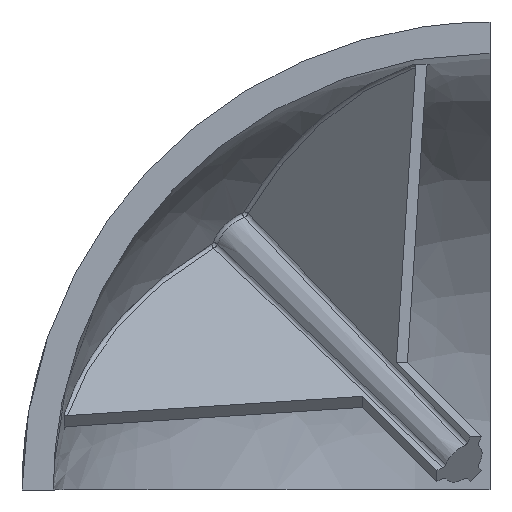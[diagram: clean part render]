
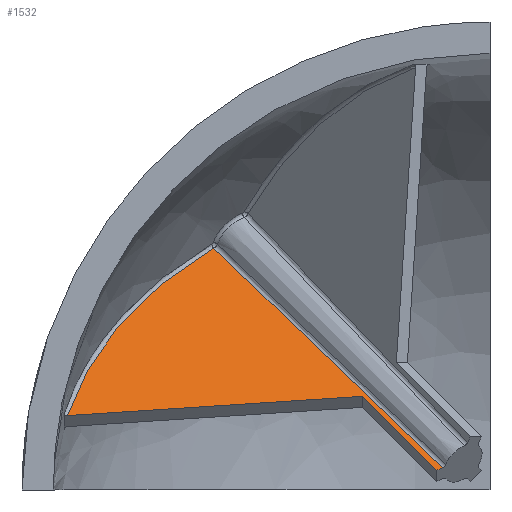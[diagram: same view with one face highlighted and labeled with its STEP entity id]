
A CAD part, front view. The second image highlights one B-rep face of the part: STEP entity #1532.
In plain terms, the highlighted planar face has unit normal (0, -0.707, 0.707).
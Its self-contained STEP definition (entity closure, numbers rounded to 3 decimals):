
#8 = CARTESIAN_POINT ( 'NONE',  ( -7.277, 4.78, 5.487 ) ) ;
#12 = ORIENTED_EDGE ( 'NONE', *, *, #229, .T. ) ;
#93 = CARTESIAN_POINT ( 'NONE',  ( -25.415, 7.614, 8.321 ) ) ;
#128 = CARTESIAN_POINT ( 'NONE',  ( -17.701, 14.796, 15.503 ) ) ;
#130 = VECTOR ( 'NONE', #1631, 1000. ) ;
#141 = EDGE_CURVE ( 'NONE', #2042, #1685, #1722, .T. ) ;
#229 = EDGE_CURVE ( 'NONE', #1975, #605, #896, .T. ) ;
#260 = CARTESIAN_POINT ( 'NONE',  ( -25.1, 8.099, 8.806 ) ) ;
#303 = CARTESIAN_POINT ( 'NONE',  ( -19.96, 13.362, 14.069 ) ) ;
#355 = CARTESIAN_POINT ( 'NONE',  ( -15.73, 12.902, 13.609 ) ) ;
#482 = LINE ( 'NONE', #2209, #1971 ) ;
#538 = CARTESIAN_POINT ( 'NONE',  ( -3.049, 0.72, 1.427 ) ) ;
#605 = VERTEX_POINT ( 'NONE', #1698 ) ;
#611 = CARTESIAN_POINT ( 'NONE',  ( -18.878, 14.108, 14.815 ) ) ;
#623 = CARTESIAN_POINT ( 'NONE',  ( -26.276, 6.135, 6.842 ) ) ;
#624 = VECTOR ( 'NONE', #1540, 1000. ) ;
#630 = ORIENTED_EDGE ( 'NONE', *, *, #1429, .T. ) ;
#707 = CARTESIAN_POINT ( 'NONE',  ( -13.759, 11.007, 11.714 ) ) ;
#751 = CARTESIAN_POINT ( 'NONE',  ( -27.08, 4.064, 4.771 ) ) ;
#857 = EDGE_LOOP ( 'NONE', ( #12, #630, #2176, #929, #1816 ) ) ;
#887 = EDGE_CURVE ( 'NONE', #1685, #1327, #1810, .T. ) ;
#896 = B_SPLINE_CURVE_WITH_KNOTS ( 'NONE', 3,
 ( #538, #2073, #8, #1388, #2060, #1908, #2085, #707, #355, #1569 ),
 .UNSPECIFIED., .F., .F.,
 ( 4, 3, 3, 4 ),
 ( 0., 0.011, 0.015, 0.025 ),
 .UNSPECIFIED. ) ;
#929 = ORIENTED_EDGE ( 'NONE', *, *, #887, .T. ) ;
#1012 = DIRECTION ( 'NONE',  ( 0., -0.707, -0.707 ) ) ;
#1123 = CARTESIAN_POINT ( 'NONE',  ( -24.038, 9.523, 10.23 ) ) ;
#1148 = DIRECTION ( 'NONE',  ( 0.816, 0.408, 0.408 ) ) ;
#1159 = CARTESIAN_POINT ( 'NONE',  ( -15.848, 18.114, 18.821 ) ) ;
#1289 = CARTESIAN_POINT ( 'NONE',  ( -8.161, 5.296, 6.004 ) ) ;
#1297 = CARTESIAN_POINT ( 'NONE',  ( -26.737, 5.116, 5.823 ) ) ;
#1327 = VERTEX_POINT ( 'NONE', #1886 ) ;
#1369 = DIRECTION ( 'NONE',  ( 0., -0.707, 0.707 ) ) ;
#1383 = CARTESIAN_POINT ( 'NONE',  ( -27.08, 4.064, 4.771 ) ) ;
#1388 = CARTESIAN_POINT ( 'NONE',  ( -9.39, 6.81, 7.517 ) ) ;
#1429 = EDGE_CURVE ( 'NONE', #605, #2042, #1839, .T. ) ;
#1443 = CARTESIAN_POINT ( 'NONE',  ( -27.08, 4.064, 4.771 ) ) ;
#1454 = CARTESIAN_POINT ( 'NONE',  ( -21.938, 11.757, 12.464 ) ) ;
#1518 = CARTESIAN_POINT ( 'NONE',  ( -3.049, 0.72, 1.427 ) ) ;
#1532 = ADVANCED_FACE ( 'NONE', ( #1892 ), #2195, .T. ) ;
#1540 = DIRECTION ( 'NONE',  ( 0.996, 0.065, 0.065 ) ) ;
#1569 = CARTESIAN_POINT ( 'NONE',  ( -17.701, 14.796, 15.503 ) ) ;
#1631 = DIRECTION ( 'NONE',  ( 0.577, -0.577, -0.577 ) ) ;
#1685 = VERTEX_POINT ( 'NONE', #2136 ) ;
#1698 = CARTESIAN_POINT ( 'NONE',  ( -17.701, 14.796, 15.503 ) ) ;
#1722 = LINE ( 'NONE', #1383, #624 ) ;
#1810 = LINE ( 'NONE', #1289, #130 ) ;
#1816 = ORIENTED_EDGE ( 'NONE', *, *, #1917, .T. ) ;
#1830 = CARTESIAN_POINT ( 'NONE',  ( -24.412, 9.053, 9.76 ) ) ;
#1839 = B_SPLINE_CURVE_WITH_KNOTS ( 'NONE', 3,
 ( #128, #611, #303, #1454, #2022, #1123, #1830, #260, #93, #623, #1297, #1443 ),
 .UNSPECIFIED., .F., .F.,
 ( 4, 2, 2, 2, 2, 4 ),
 ( 0., 0.005, 0.009, 0.011, 0.014, 0.018 ),
 .UNSPECIFIED. ) ;
#1886 = CARTESIAN_POINT ( 'NONE',  ( -3.406, 0.542, 1.249 ) ) ;
#1892 = FACE_OUTER_BOUND ( 'NONE', #857, .T. ) ;
#1908 = CARTESIAN_POINT ( 'NONE',  ( -10.989, 8.345, 9.052 ) ) ;
#1917 = EDGE_CURVE ( 'NONE', #1327, #1975, #482, .T. ) ;
#1971 = VECTOR ( 'NONE', #1148, 1000. ) ;
#1975 = VERTEX_POINT ( 'NONE', #1518 ) ;
#2022 = CARTESIAN_POINT ( 'NONE',  ( -22.836, 10.898, 11.605 ) ) ;
#2042 = VERTEX_POINT ( 'NONE', #751 ) ;
#2060 = CARTESIAN_POINT ( 'NONE',  ( -10.19, 7.577, 8.284 ) ) ;
#2073 = CARTESIAN_POINT ( 'NONE',  ( -5.163, 2.75, 3.457 ) ) ;
#2085 = CARTESIAN_POINT ( 'NONE',  ( -11.788, 9.113, 9.82 ) ) ;
#2110 = AXIS2_PLACEMENT_3D ( 'NONE', #1159, #1369, #1012 ) ;
#2136 = CARTESIAN_POINT ( 'NONE',  ( -8.161, 5.296, 6.004 ) ) ;
#2176 = ORIENTED_EDGE ( 'NONE', *, *, #141, .T. ) ;
#2195 = PLANE ( 'NONE',  #2110 ) ;
#2209 = CARTESIAN_POINT ( 'NONE',  ( -3.406, 0.542, 1.249 ) ) ;
